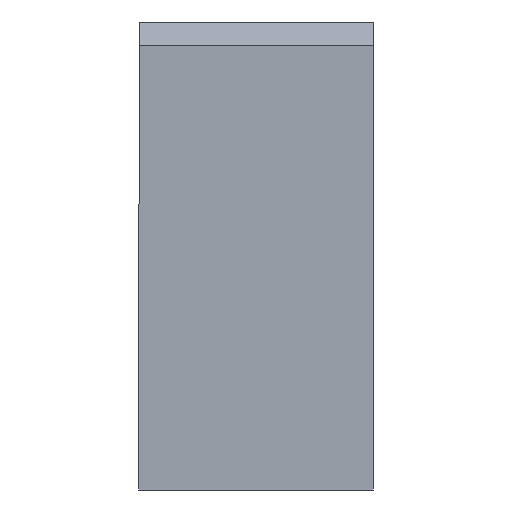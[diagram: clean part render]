
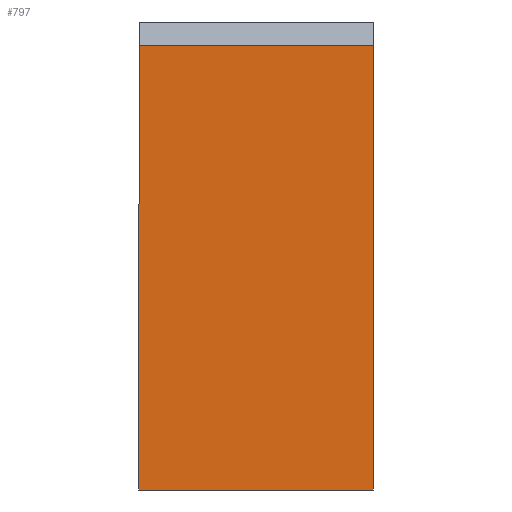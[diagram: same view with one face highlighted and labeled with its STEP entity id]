
A CAD part, front view. The second image highlights one B-rep face of the part: STEP entity #797.
In plain terms, the highlighted planar face has unit normal (0, -1, 0).
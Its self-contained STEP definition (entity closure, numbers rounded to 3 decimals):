
#770=AXIS2_PLACEMENT_3D('Plane Axis2P3D',#767,#768,#769) ;
#272=CARTESIAN_POINT('Vertex',(10.,-42.,0.)) ;
#275=CARTESIAN_POINT('Line Origine',(5.,-42.,0.)) ;
#279=CARTESIAN_POINT('Vertex',(0.,-42.,0.)) ;
#767=CARTESIAN_POINT('Axis2P3D Location',(0.,-42.,0.)) ;
#772=CARTESIAN_POINT('Line Origine',(0.,-42.,9.5)) ;
#776=CARTESIAN_POINT('Vertex',(0.,-42.,19.)) ;
#779=CARTESIAN_POINT('Line Origine',(10.,-42.,9.5)) ;
#783=CARTESIAN_POINT('Vertex',(10.,-42.,19.)) ;
#786=CARTESIAN_POINT('Line Origine',(5.,-42.,19.)) ;
#276=DIRECTION('Vector Direction',(-1.,0.,0.)) ;
#768=DIRECTION('Axis2P3D Direction',(0.,-1.,0.)) ;
#769=DIRECTION('Axis2P3D XDirection',(1.,0.,0.)) ;
#773=DIRECTION('Vector Direction',(0.,0.,1.)) ;
#780=DIRECTION('Vector Direction',(0.,0.,1.)) ;
#787=DIRECTION('Vector Direction',(-1.,0.,0.)) ;
#277=VECTOR('Line Direction',#276,1.) ;
#774=VECTOR('Line Direction',#773,1.) ;
#781=VECTOR('Line Direction',#780,1.) ;
#788=VECTOR('Line Direction',#787,1.) ;
#792=ORIENTED_EDGE('',*,*,#778,.F.) ;
#793=ORIENTED_EDGE('',*,*,#281,.T.) ;
#794=ORIENTED_EDGE('',*,*,#785,.T.) ;
#795=ORIENTED_EDGE('',*,*,#790,.T.) ;
#797=ADVANCED_FACE('\X2\96F64EF651E04F554F53\X0\',(#796),#771,.T.) ;
#281=EDGE_CURVE('',#280,#273,#278,.F.) ;
#778=EDGE_CURVE('',#280,#777,#775,.T.) ;
#785=EDGE_CURVE('',#273,#784,#782,.T.) ;
#790=EDGE_CURVE('',#784,#777,#789,.T.) ;
#791=EDGE_LOOP('',(#792,#793,#794,#795)) ;
#796=FACE_OUTER_BOUND('',#791,.T.) ;
#278=LINE('Line',#275,#277) ;
#775=LINE('Line',#772,#774) ;
#782=LINE('Line',#779,#781) ;
#789=LINE('Line',#786,#788) ;
#771=PLANE('',#770) ;
#273=VERTEX_POINT('',#272) ;
#280=VERTEX_POINT('',#279) ;
#777=VERTEX_POINT('',#776) ;
#784=VERTEX_POINT('',#783) ;
